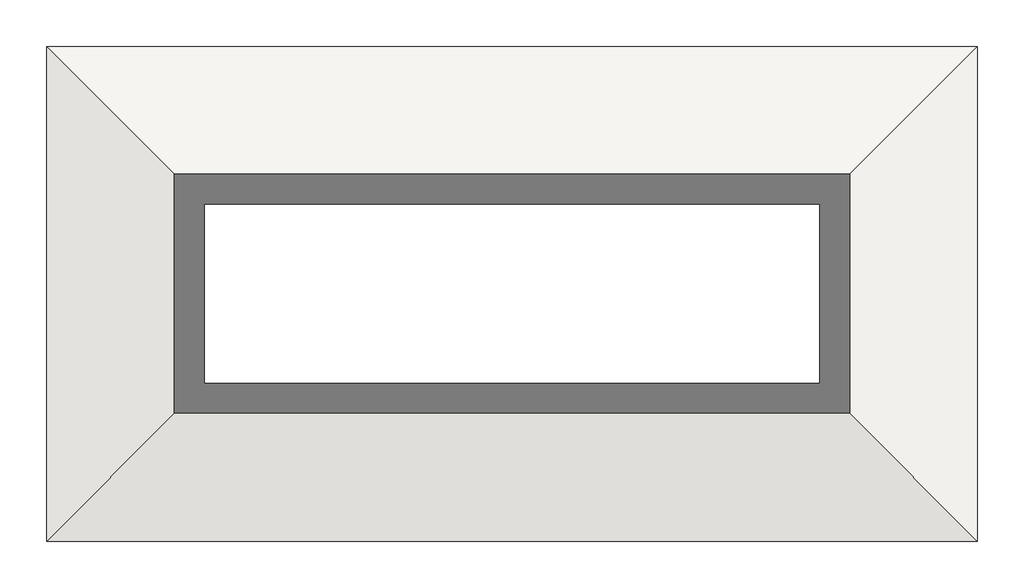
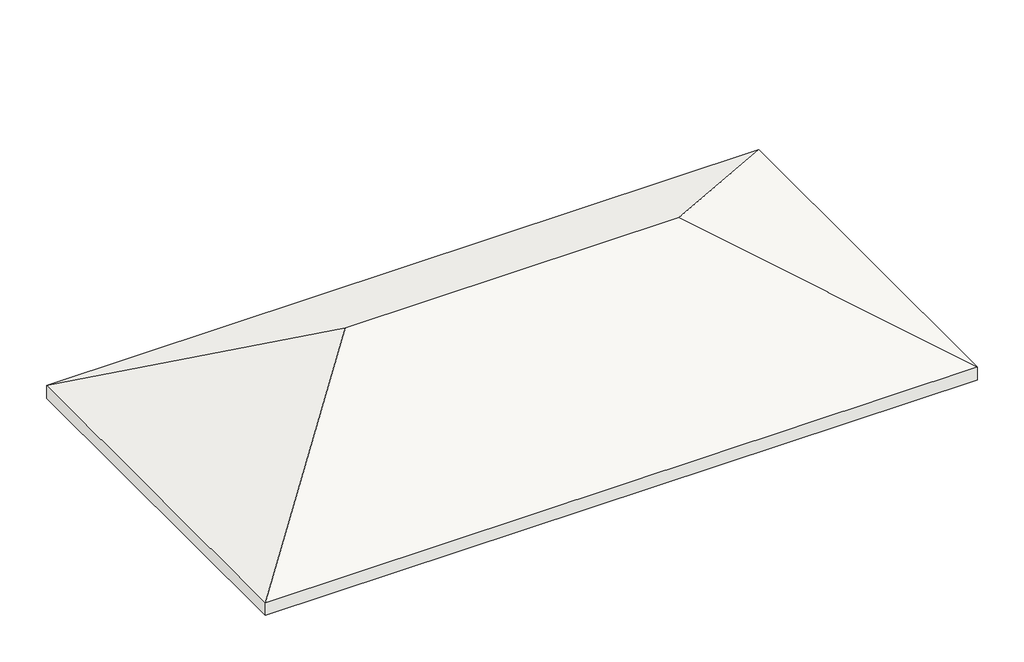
# One storey: 1 roof.
"""IFC4 building model written with IfcOpenShell, lengths in millimetres."""

from ifc_helpers import new_model, si_unit, origin, place, context, project, spatial, faceted_brep, element, save

model = new_model("IFC4")

# Units and contexts
model_context = context("Model", 3, world=origin())
ifc_project = project(units=[si_unit("LENGTHUNIT", "METRE", prefix="MILLI")], contexts=[model_context])

# Site, building, storey
site = spatial("IfcSite", under=ifc_project)
building = spatial("IfcBuilding", under=site)
storey = spatial("IfcBuildingStorey", under=building, Name="0 - Sabliere", Elevation=5600.0)

# Roof
placement = place(None, origin())
element("IfcRoof", 1, ObjectType="Toit - 200 mm", at=placement, inside=storey, context=model_context, shape_type="Brep", body=[
    faceted_brep([(-1923.7146801, 2478.3158898, 7476.3883749), (-5173.7146801, -771.6841102, 5600.0), (-5173.7146801, 5728.3158898, 5600.0), (7046.2853199, -771.6841102, 5600.0), (3796.2853199, 2478.3158898, 7476.3883749), (7046.2853199, 5728.3158898, 5600.0), (-5173.7146801, -771.6841102, 5830.9401077), (-1923.7146801, 2478.3158898, 7707.3284825), (-5173.7146801, 5728.3158898, 5830.9401077), (7046.2853199, -771.6841102, 5830.9401077), (7046.2853199, 5728.3158898, 5830.9401077), (3796.2853199, 2478.3158898, 7707.3284825)], [[[0, 1, 2]], [[3, 4, 5]], [[1, 0, 4, 3]], [[5, 4, 0, 2]], [[6, 7, 8]], [[9, 10, 11]], [[6, 9, 11, 7]], [[10, 8, 7, 11]], [[3, 9, 6, 1]], [[5, 10, 9, 3]], [[2, 8, 10, 5]], [[1, 6, 8, 2]]]),
])

save(model, "model.ifc")
